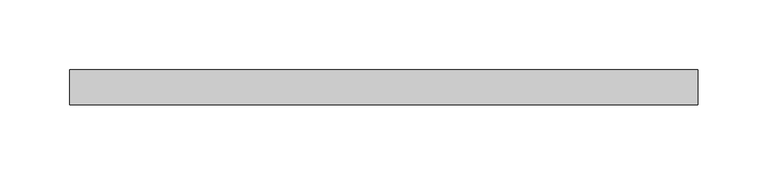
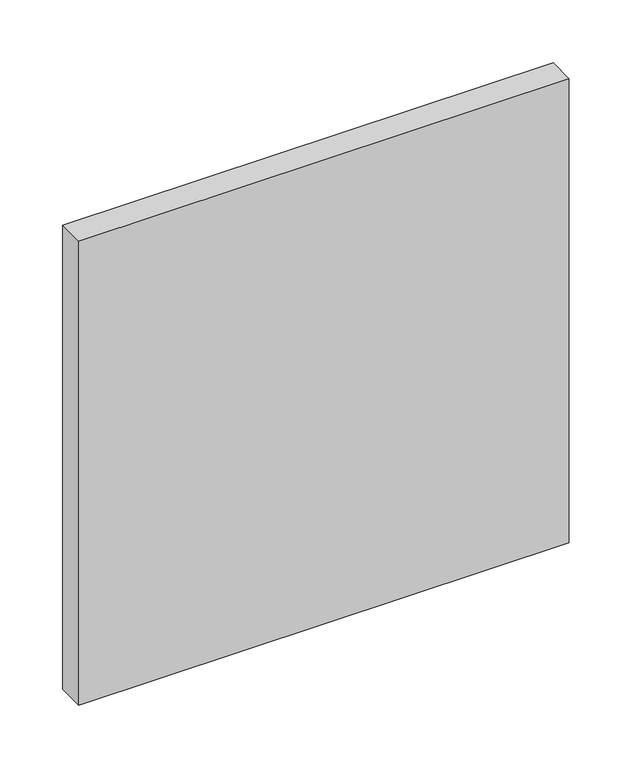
"""IFC4 building model written with IfcOpenShell, lengths in millimetres: plate geometry, Системная панель : С остеклением."""

from ifc_helpers import new_model, si_unit, origin, origin_with_axes, place, context, project, spatial, polyline, outline, extrude, source, transform, mapped, element, save


def plate_3c5f5a08(model_context):
    return source(origin(), model_context, "Body", "SweptSolid", [
        extrude(outline(polyline([(225.0, 24.5), (-225.0, 24.5), (-225.0, 49.5), (225.0, 49.5), (225.0, 24.5)])), origin_with_axes(), (0.0, 0.0, 1.0), 450.0),
    ])


if __name__ == "__main__":
    model = new_model("IFC4")
    model_context = context("Model", 3, world=origin())
    ifc_project = project(units=[si_unit("LENGTHUNIT", "METRE", prefix="MILLI")], contexts=[model_context])
    site = spatial("IfcSite", under=ifc_project)
    building = spatial("IfcBuilding", under=site)
    placement = place(None, origin())
    plate_shape = plate_3c5f5a08(model_context)
    element("IfcPlate", 1, ObjectType="Системная панель : С остеклением", at=placement, inside=building, context=model_context, shape_type="MappedRepresentation", body=[
        mapped(plate_shape, transform((0.0, 0.0, 0.0), x_axis=(1.0, 0.0, 0.0), y_axis=(0.0, 1.0, 0.0), z_axis=(0.0, 0.0, 1.0))),
    ])
    save(model, "model.ifc")
